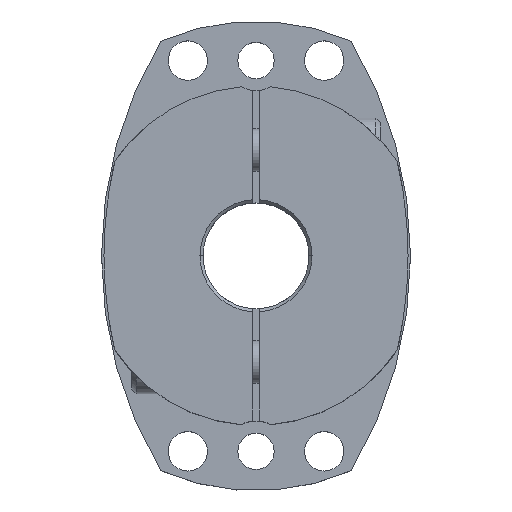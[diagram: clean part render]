
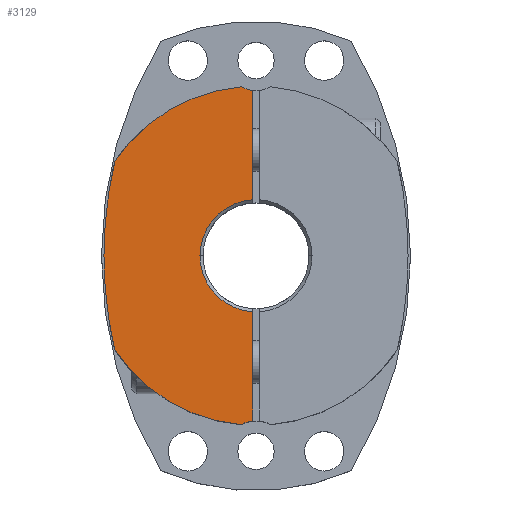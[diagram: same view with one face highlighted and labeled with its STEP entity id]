
A CAD part, top view. The second image highlights one B-rep face of the part: STEP entity #3129.
In plain terms, the highlighted planar face has unit normal (0, 0, 1).
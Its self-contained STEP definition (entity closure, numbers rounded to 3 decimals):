
#414=CARTESIAN_POINT('',(-18.5,0.,42.5));
#415=VERTEX_POINT('',#414);
#422=CARTESIAN_POINT('',(-1.,-18.473,42.5));
#423=VERTEX_POINT('',#422);
#424=CARTESIAN_POINT('',(0.,0.,42.5));
#425=DIRECTION('',(0.0,0.0,1.0));
#426=DIRECTION('',(1.0,0.0,0.0));
#427=AXIS2_PLACEMENT_3D('',#424,#425,#426);
#428=CIRCLE('',#427,18.5);
#429=EDGE_CURVE('',#415,#423,#428,.T.);
#936=CARTESIAN_POINT('',(-50.2,0.,42.5));
#937=VERTEX_POINT('',#936);
#946=CARTESIAN_POINT('',(-46.66,30.965,42.5));
#947=VERTEX_POINT('',#946);
#948=CARTESIAN_POINT('',(87.,0.,42.5));
#949=DIRECTION('',(0.0,0.0,-1.0));
#950=DIRECTION('',(1.0,0.0,0.0));
#951=AXIS2_PLACEMENT_3D('',#948,#949,#950);
#952=CIRCLE('',#951,137.2);
#953=EDGE_CURVE('',#937,#947,#952,.T.);
#2266=CARTESIAN_POINT('',(-46.66,-30.965,42.5));
#2267=VERTEX_POINT('',#2266);
#2274=CARTESIAN_POINT('',(87.,0.,42.5));
#2275=DIRECTION('',(0.0,0.0,-1.0));
#2276=DIRECTION('',(1.0,0.0,0.0));
#2277=AXIS2_PLACEMENT_3D('',#2274,#2275,#2276);
#2278=CIRCLE('',#2277,137.2);
#2279=EDGE_CURVE('',#2267,#937,#2278,.T.);
#2595=CARTESIAN_POINT('',(-4.904,55.785,42.5));
#2596=VERTEX_POINT('',#2595);
#2597=CARTESIAN_POINT('',(0.,0.,42.5));
#2598=DIRECTION('',(0.0,0.0,-1.0));
#2599=DIRECTION('',(1.0,0.0,0.0));
#2600=AXIS2_PLACEMENT_3D('',#2597,#2598,#2599);
#2601=CIRCLE('',#2600,56.);
#2602=EDGE_CURVE('',#947,#2596,#2601,.T.);
#2761=CARTESIAN_POINT('',(-1.,54.55,42.5));
#2762=VERTEX_POINT('',#2761);
#2769=CARTESIAN_POINT('',(-1.,18.473,42.5));
#2770=VERTEX_POINT('',#2769);
#2771=CARTESIAN_POINT('',(-1.,18.473,42.5));
#2772=DIRECTION('',(0.0,1.0,0.0));
#2773=VECTOR('',#2772,36.077);
#2774=LINE('',#2771,#2773);
#2775=EDGE_CURVE('',#2770,#2762,#2774,.T.);
#2863=CARTESIAN_POINT('',(-1.,-54.55,42.5));
#2864=VERTEX_POINT('',#2863);
#2865=CARTESIAN_POINT('',(-1.,-54.55,42.5));
#2866=DIRECTION('',(0.0,1.0,0.0));
#2867=VECTOR('',#2866,36.077);
#2868=LINE('',#2865,#2867);
#2869=EDGE_CURVE('',#2864,#423,#2868,.T.);
#2950=CARTESIAN_POINT('',(-4.904,-55.785,42.5));
#2951=VERTEX_POINT('',#2950);
#2952=CARTESIAN_POINT('',(0.,-64.5,42.5));
#2953=DIRECTION('',(0.0,0.0,-1.0));
#2954=DIRECTION('',(1.0,0.0,0.0));
#2955=AXIS2_PLACEMENT_3D('',#2952,#2953,#2954);
#2956=CIRCLE('',#2955,10.0);
#2957=EDGE_CURVE('',#2951,#2864,#2956,.T.);
#3094=CARTESIAN_POINT('',(0.,0.,42.5));
#3095=DIRECTION('',(0.0,0.0,1.0));
#3096=DIRECTION('',(1.0,0.0,0.0));
#3097=AXIS2_PLACEMENT_3D('',#3094,#3095,#3096);
#3098=PLANE('',#3097);
#3099=ORIENTED_EDGE('',*,*,#2869,.T.);
#3100=ORIENTED_EDGE('',*,*,#429,.F.);
#3101=CARTESIAN_POINT('',(0.,0.,42.5));
#3102=DIRECTION('',(0.0,0.0,1.0));
#3103=DIRECTION('',(1.0,0.0,0.0));
#3104=AXIS2_PLACEMENT_3D('',#3101,#3102,#3103);
#3105=CIRCLE('',#3104,18.5);
#3106=EDGE_CURVE('',#2770,#415,#3105,.T.);
#3107=ORIENTED_EDGE('',*,*,#3106,.F.);
#3108=ORIENTED_EDGE('',*,*,#2775,.T.);
#3109=CARTESIAN_POINT('',(0.,64.5,42.5));
#3110=DIRECTION('',(0.0,0.0,-1.0));
#3111=DIRECTION('',(1.0,0.0,0.0));
#3112=AXIS2_PLACEMENT_3D('',#3109,#3110,#3111);
#3113=CIRCLE('',#3112,10.0);
#3114=EDGE_CURVE('',#2762,#2596,#3113,.T.);
#3115=ORIENTED_EDGE('',*,*,#3114,.T.);
#3116=ORIENTED_EDGE('',*,*,#2602,.F.);
#3117=ORIENTED_EDGE('',*,*,#953,.F.);
#3118=ORIENTED_EDGE('',*,*,#2279,.F.);
#3119=CARTESIAN_POINT('',(0.,0.0,42.5));
#3120=DIRECTION('',(0.0,0.0,-1.0));
#3121=DIRECTION('',(1.0,0.0,0.0));
#3122=AXIS2_PLACEMENT_3D('',#3119,#3120,#3121);
#3123=CIRCLE('',#3122,56.);
#3124=EDGE_CURVE('',#2951,#2267,#3123,.T.);
#3125=ORIENTED_EDGE('',*,*,#3124,.F.);
#3126=ORIENTED_EDGE('',*,*,#2957,.T.);
#3127=EDGE_LOOP('',(#3099,#3100,#3107,#3108,#3115,#3116,#3117,#3118,#3125,#3126));
#3128=FACE_OUTER_BOUND('',#3127,.T.);
#3129=ADVANCED_FACE('',(#3128),#3098,.T.);
